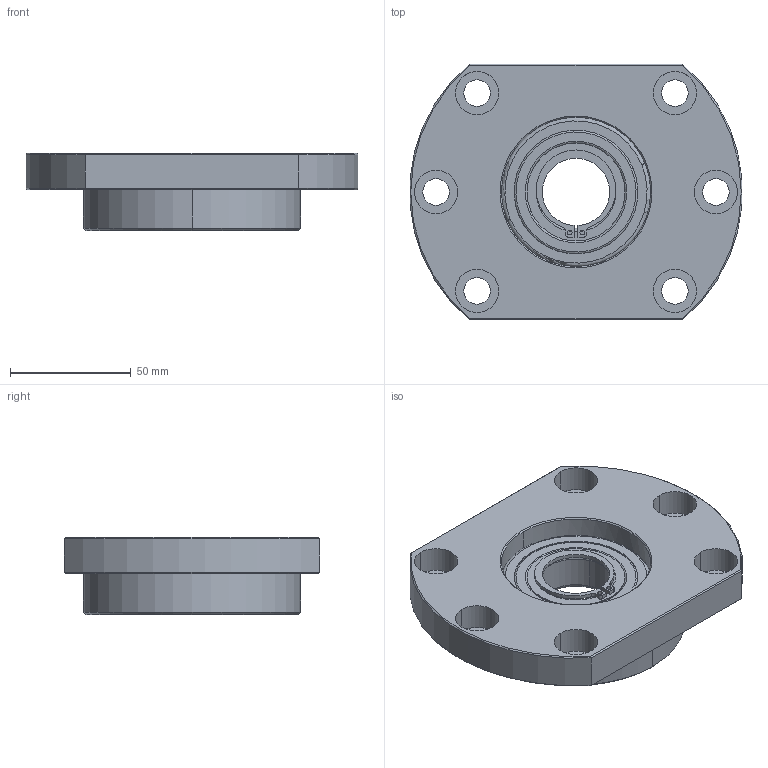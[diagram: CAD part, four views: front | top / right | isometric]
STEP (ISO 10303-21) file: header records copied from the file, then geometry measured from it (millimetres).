
FILE_DESCRIPTION (( 'STEP AP203' ), '1' );
FILE_NAME ('FF-30D-ASS''Y.STEP', '2016-07-18T08:23:10', ( '' ), ( '' ), 'SwSTEP 2.0', 'SolidWorks 2016', '' );
FILE_SCHEMA (( 'CONFIG_CONTROL_DESIGN' ));
Length unit declared in the file: millimetre
Products named in the file (1): FF-30D-ASS''Y
Bounding box: 137.56 x 106 x 32 mm (x, y, z)
Volume: 222033.6 mm3; surface area: 50078.8 mm2
Topology: 1 solids, 3 shells, 127 faces, 304 edges, 188 vertices
Faces by surface type: cylinder 64, plane 33, torus 20, cone 10
Entity records: 3875 total; most frequent: DIRECTION 748, CARTESIAN_POINT 644, ORIENTED_EDGE 608, AXIS2_PLACEMENT_3D 324, EDGE_CURVE 304, CIRCLE 196, VERTEX_POINT 188, EDGE_LOOP 158
